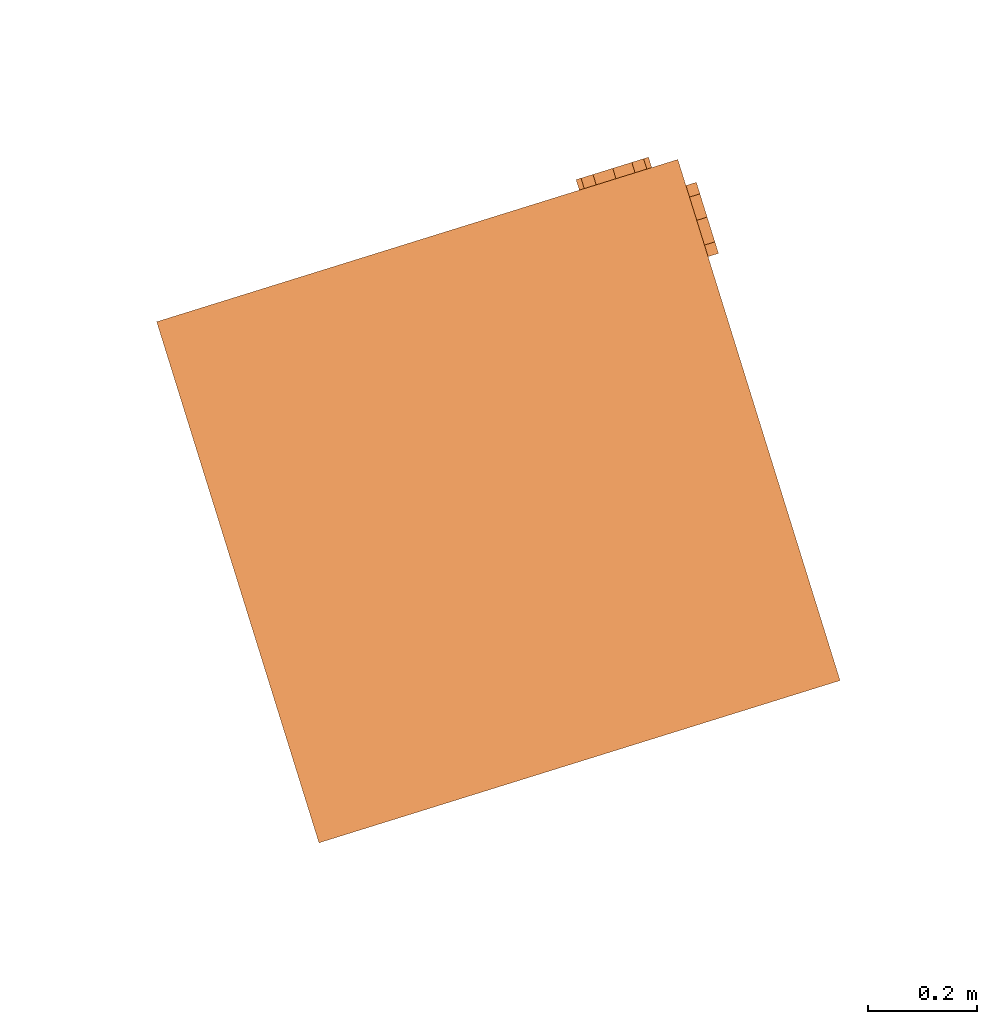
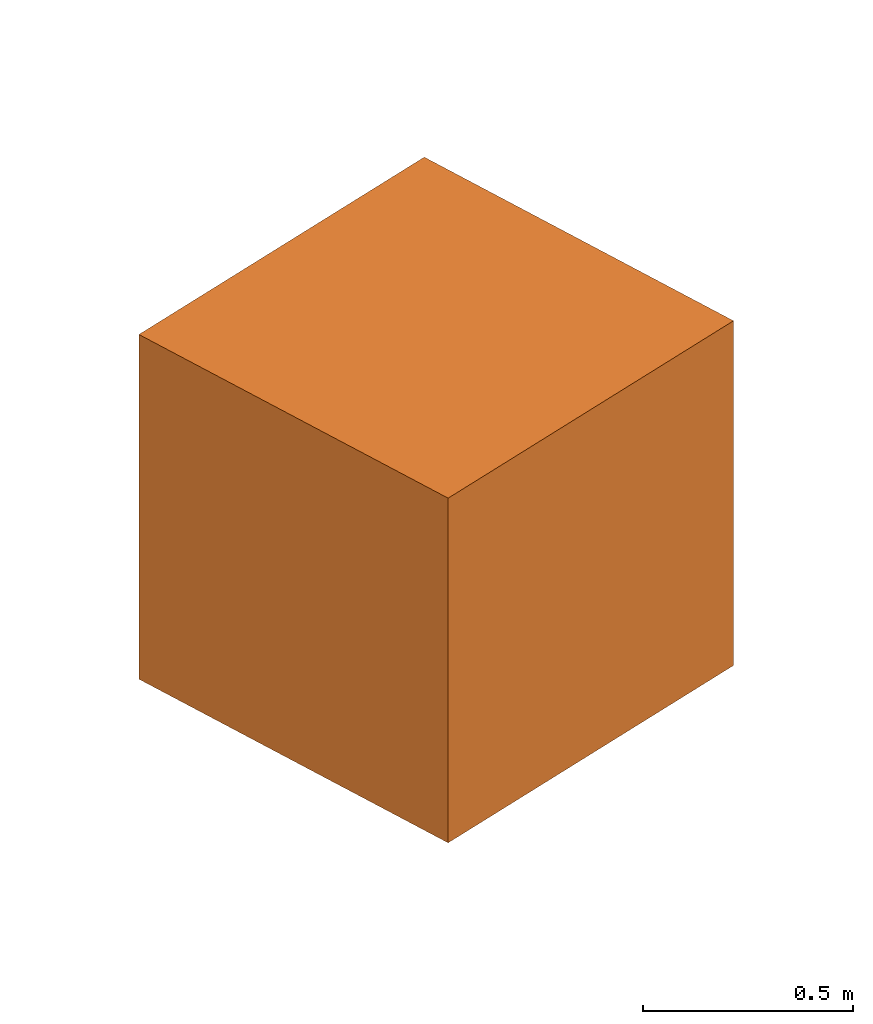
# One storey, part 2 of 2: 1 proxy.
"""IFC4 building model written with IfcOpenShell, lengths in metres."""

import ifcopenshell
import ifcopenshell.guid

model = None  # the IFC model being written
_history = None  # IfcOwnerHistory: only IFC2X3 demands one
_inside = {}  # id of a spatial element -> (the spatial element, [elements in it])
_under = {}  # id of a project, library or spatial element -> (it, [spatial elements below it])
_declared = {}  # id of a project -> (the project, [libraries it declares])
_typed = {}  # id of a type object -> (the type object, [elements of that type])
_made_of = {}  # id of a material, layer set ... -> (it, [elements and type objects made of it])


def new_model(schema):
    """Start an empty IFC model of exactly this schema.

    Asked for "IFC4X3", IfcOpenShell would pick the latest addendum, in which some entities
    have other attributes; the version numbers below select the first issue.
    IFC2X3 requires an IfcOwnerHistory on every rooted entity: one is made here for all.
    """
    global model, _history
    if schema == "IFC4X3":
        model = ifcopenshell.file(schema_version=(4, 3, 0, 0))
    else:
        model = ifcopenshell.file(schema=schema)
    _inside.clear()
    _under.clear()
    _declared.clear()
    _typed.clear()
    _made_of.clear()
    _history = None
    if model.schema == "IFC2X3":
        org = make("IfcOrganization", Name="unknown")
        user = make(
            "IfcPersonAndOrganization",
            ThePerson=make("IfcPerson", FamilyName="unknown"),
            TheOrganization=org,
        )
        app = make(
            "IfcApplication",
            ApplicationDeveloper=org,
            Version="unknown",
            ApplicationFullName="unknown",
            ApplicationIdentifier="unknown",
        )
        _history = make(
            "IfcOwnerHistory",
            OwningUser=user,
            OwningApplication=app,
            ChangeAction="ADDED",
            CreationDate=0,
        )
    return model


def make(cls, **values):
    """One entity of the class cls with the attributes given. An attribute that is None is left unset."""
    return model.create_entity(
        cls, **{name: value for name, value in values.items() if value is not None}
    )


def entity(cls, *values):
    """Any entity or typed value of the class cls, its attributes in the order of the schema. None: left unset."""
    e = model.create_entity(cls)
    for i, value in enumerate(values):
        if value is not None:
            e[i] = value
    return e


def rooted(cls, **values):
    """An entity with a GlobalId (a new one), such as an element, a storey or a relation."""
    return make(cls, GlobalId=ifcopenshell.guid.new(), OwnerHistory=_history, **values)


def si_unit(unit_type, name, prefix=None):
    """IfcSIUnit, for example si_unit("LENGTHUNIT", "METRE", prefix="MILLI")."""
    return make("IfcSIUnit", UnitType=unit_type, Prefix=prefix, Name=name)


def converted_unit(unit_type, name, factor, base, dimensions=None, offset=None):
    """IfcConversionBasedUnit, such as the inch: factor (a typed value) times the base unit."""
    return make(
        "IfcConversionBasedUnit"
        if offset is None
        else "IfcConversionBasedUnitWithOffset",
        ConversionOffset=offset,
        Dimensions=None
        if dimensions is None
        else entity("IfcDimensionalExponents", *dimensions),
        UnitType=unit_type,
        Name=name,
        ConversionFactor=make(
            "IfcMeasureWithUnit", ValueComponent=factor, UnitComponent=base
        ),
    )


def assignment(units):
    """IfcUnitAssignment: the units of a project."""
    return None if units is None else make("IfcUnitAssignment", Units=units)


def point(xyz):
    """IfcCartesianPoint."""
    return None if xyz is None else make("IfcCartesianPoint", Coordinates=xyz)


def direction(xyz):
    """IfcDirection."""
    return None if xyz is None else make("IfcDirection", DirectionRatios=xyz)


def frame(location, z_axis=None, x_axis=None):
    """IfcAxis2Placement3D, a coordinate frame: its origin and axes. An axis left out is left unset."""
    return make(
        "IfcAxis2Placement3D",
        Location=point(location),
        Axis=direction(z_axis),
        RefDirection=direction(x_axis),
    )


def origin():
    """The frame at (0, 0, 0) with its axes left unset."""
    return frame((0.0, 0.0, 0.0))


def place(relative_to, where):
    """IfcLocalPlacement: puts the frame where relative to a parent placement (None: the world)."""
    return make(
        "IfcLocalPlacement", PlacementRelTo=relative_to, RelativePlacement=where
    )


def context(
    kind, dimensions, precision=None, world=None, true_north=None, identifier=None
):
    """IfcGeometricRepresentationContext, for example the 3D "Model" context."""
    return make(
        "IfcGeometricRepresentationContext",
        ContextIdentifier=identifier,
        ContextType=kind,
        CoordinateSpaceDimension=dimensions,
        Precision=precision,
        WorldCoordinateSystem=world,
        TrueNorth=true_north,
    )


def subcontext(parent, identifier, kind, view, scale=None):
    """IfcGeometricRepresentationSubContext, for example "Body" below "Model"."""
    return make(
        "IfcGeometricRepresentationSubContext",
        ContextIdentifier=identifier,
        ContextType=kind,
        ParentContext=parent,
        TargetScale=scale,
        TargetView=view,
    )


def project(units=None, contexts=None):
    """IfcProject with its units and contexts."""
    return rooted(
        "IfcProject",
        Name="project",
        RepresentationContexts=contexts,
        UnitsInContext=assignment(units),
    )


def spatial(cls, under=None, at=None, **own):
    """A site, building, storey or space (cls), placed at a placement, below another one or the project."""
    s = rooted(cls, ObjectPlacement=at, **own)
    if under is not None:
        _under.setdefault(under.id(), (under, []))[1].append(s)
    return s


def point_list(points):
    """IfcCartesianPointList2D or 3D."""
    cls = (
        "IfcCartesianPointList2D" if len(points[0]) == 2 else "IfcCartesianPointList3D"
    )
    return make(cls, CoordList=points)


def polygons(points, faces, closed=None, point_numbers=None):
    """IfcPolygonalFaceSet: a face is its outer loop, then its inner loops; points numbered from 1."""
    made = []
    for loops in faces:
        if len(loops) == 1:
            made.append(make("IfcIndexedPolygonalFace", CoordIndex=loops[0]))
        else:
            made.append(
                make(
                    "IfcIndexedPolygonalFaceWithVoids",
                    CoordIndex=loops[0],
                    InnerCoordIndices=loops[1:],
                )
            )
    return make(
        "IfcPolygonalFaceSet",
        Coordinates=point_list(points),
        Closed=closed,
        Faces=made,
        PnIndex=point_numbers,
    )


def shape(context_of_items, identifier, shape_type, items):
    """IfcShapeRepresentation: the items that make up one representation, for example the "Body"."""
    return make(
        "IfcShapeRepresentation",
        ContextOfItems=context_of_items,
        RepresentationIdentifier=identifier,
        RepresentationType=shape_type,
        Items=items,
    )


def source(mapping_origin, context_of_items, identifier, shape_type, items):
    """IfcRepresentationMap: a shape defined once, which mapped items show again and again."""
    return make(
        "IfcRepresentationMap",
        MappingOrigin=mapping_origin,
        MappedRepresentation=shape(context_of_items, identifier, shape_type, items),
    )


def transform(
    local_origin,
    x_axis=None,
    y_axis=None,
    z_axis=None,
    scale=None,
    scale2=None,
    scale3=None,
    uniform=True,
):
    """IfcCartesianTransformationOperator3D, or its non-uniform kind. x_axis, y_axis, z_axis: its Axis1, 2, 3."""
    if uniform:
        return make(
            "IfcCartesianTransformationOperator3D",
            Axis1=direction(x_axis),
            Axis2=direction(y_axis),
            LocalOrigin=point(local_origin),
            Scale=scale,
            Axis3=direction(z_axis),
        )
    return make(
        "IfcCartesianTransformationOperator3DnonUniform",
        Axis1=direction(x_axis),
        Axis2=direction(y_axis),
        LocalOrigin=point(local_origin),
        Scale=scale,
        Axis3=direction(z_axis),
        Scale2=scale2,
        Scale3=scale3,
    )


def mapped(mapping_source, mapping_target):
    """IfcMappedItem: shows the shape of a source again, moved by a transform."""
    return make(
        "IfcMappedItem", MappingSource=mapping_source, MappingTarget=mapping_target
    )


def material(Name=None, Category=None):
    """IfcMaterial."""
    return make("IfcMaterial", Name=Name, Category=Category)


def constituent(of_material, Name=None, Category=None, fraction=None):
    """IfcMaterialConstituent: one of the materials an element consists of."""
    return make(
        "IfcMaterialConstituent",
        Name=Name,
        Material=of_material,
        Fraction=fraction,
        Category=Category,
    )


def constituent_set(constituents=None, Name=None):
    """IfcMaterialConstituentSet."""
    return make(
        "IfcMaterialConstituentSet", Name=Name, MaterialConstituents=constituents
    )


def made_of(thing, what):
    """Note that an element or type object is made of a material, layer set ...; save() writes the relation."""
    if what is not None:
        _made_of.setdefault(what.id(), (what, []))[1].append(thing)
    return thing


def type_object(cls, material=None, **own):
    """A type object (cls), such as IfcWallType, which elements share."""
    return made_of(rooted(cls, **own), material)


def type_shapes(of_type, sources):
    """Give a type object the sources (RepresentationMaps) that its elements show as mapped items."""
    of_type.RepresentationMaps = sources


def element(
    cls,
    number,
    at=None,
    inside=None,
    cuts=None,
    type_object=None,
    material=None,
    context=None,
    identifier="Body",
    shape_type=None,
    held_by="IfcProductDefinitionShape",
    body=None,
    shapes=None,
    **own,
):
    """One element of the class cls, such as IfcWall. Its Tag is "e" and its number.

    at: its placement. inside: the storey or other place that contains it. cuts: it is an
    opening in that element (IfcRelVoidsElement). A single representation is given by context,
    identifier, shape_type and body (its items); several are given by shapes. held_by: the class
    of the entity that holds the representations. save() writes the other relations.
    """
    e = rooted(cls, Tag="e%d" % number, ObjectPlacement=at, **own)
    if body is not None:
        shapes = [shape(context, identifier, shape_type, body)]
    if shapes is not None:
        e.Representation = make(held_by, Representations=shapes)
    if inside is not None:
        _inside.setdefault(inside.id(), (inside, []))[1].append(e)
    if cuts is not None:
        rooted(
            "IfcRelVoidsElement", RelatingBuildingElement=cuts, RelatedOpeningElement=e
        )
    if type_object is not None:
        _typed.setdefault(type_object.id(), (type_object, []))[1].append(e)
    return made_of(e, material)


def aggregate(whole, parts):
    """IfcRelAggregates: a whole, such as a stair, and the parts it consists of."""
    return rooted("IfcRelAggregates", RelatingObject=whole, RelatedObjects=parts)


def save(model, path):
    """Write the relations noted so far, then the file.

    IfcRelAggregates (storeys below a building ...), IfcRelContainedInSpatialStructure (elements
    in a storey), IfcRelDefinesByType, IfcRelAssociatesMaterial and IfcRelDeclares: one each for
    every whole, place, type object, material and project.
    """
    for whole, parts in _under.values():
        aggregate(whole, parts)
    for where, things in _inside.values():
        rooted(
            "IfcRelContainedInSpatialStructure",
            RelatedElements=things,
            RelatingStructure=where,
        )
    for kind, things in _typed.values():
        rooted("IfcRelDefinesByType", RelatedObjects=things, RelatingType=kind)
    for what, things in _made_of.values():
        rooted("IfcRelAssociatesMaterial", RelatedObjects=things, RelatingMaterial=what)
    for by, libraries in _declared.values():
        rooted("IfcRelDeclares", RelatingContext=by, RelatedDefinitions=libraries)
    model.write(path)


model = new_model("IFC4")

# Units and contexts
model_context = context("Model", 3, precision=1e-05, world=origin(), true_north=direction((6.12323399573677e-17, 1.0)))
body_context = subcontext(model_context, "Body", "Model", "MODEL_VIEW")
ifc_project = project(units=[si_unit("LENGTHUNIT", "METRE"), si_unit("AREAUNIT", "SQUARE_METRE"), si_unit("VOLUMEUNIT", "CUBIC_METRE"), converted_unit("PLANEANGLEUNIT", "DEGREE", entity("IfcPlaneAngleMeasure", 0.0174532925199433), si_unit("PLANEANGLEUNIT", "RADIAN"), dimensions=[0, 0, 0, 0, 0, 0, 0])], contexts=[model_context])

# Site, building, storey
site_placement = place(None, frame((13.1347999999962, 11.9886000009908, 0.0), z_axis=(0.0, 0.0, 1.0), x_axis=(0.954770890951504, 0.297342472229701, 0.0)))
site = spatial("IfcSite", under=ifc_project, at=site_placement, Name="Schiehaven", CompositionType="ELEMENT")
building_placement = place(site_placement, origin())
building = spatial("IfcBuilding", under=site, at=building_placement, Name="VORM huis", CompositionType="ELEMENT")
storey_placement = place(building_placement, origin())
storey = spatial("IfcBuildingStorey", under=building, at=storey_placement, Name="00 begane grond", CompositionType="ELEMENT", Elevation=0.0)

# Proxy
ifc_material_1 = material(Name="Blauw")
ifc_constituent_1 = constituent(ifc_material_1, Name="Blauw")
ifc_material_2 = material(Name="Wit")
ifc_constituent_2 = constituent(ifc_material_2, Name="Wit")
ifc_constituent_set_1 = constituent_set(constituents=[ifc_constituent_1, ifc_constituent_2])
ifc_constituent_3 = constituent(ifc_material_1, Name="Blauw")
ifc_constituent_4 = constituent(ifc_material_2, Name="Wit")
ifc_constituent_set_2 = constituent_set(constituents=[ifc_constituent_3, ifc_constituent_4])
building_element_proxy_type = type_object("IfcBuildingElementProxyType", Name="VORM_coordinatiepunt:Lokaal-coordinatiepunt", PredefinedType="NOTDEFINED", material=ifc_constituent_set_2)
shared_shape = source(origin(), body_context, "Body", "Tessellation", [
    polygons([(-0.0499999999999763, 0.0200000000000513, -0.2), (-0.0729190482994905, 0.0200000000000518, -0.2), (-0.110700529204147, 0.0200000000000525, -0.146509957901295), (-0.119566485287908, 0.0200000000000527, -0.134075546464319), (-0.127623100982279, 0.0200000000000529, -0.145406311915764), (-0.166324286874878, 0.0200000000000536, -0.2), (-0.188912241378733, 0.0200000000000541, -0.2), (-0.130823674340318, 0.0200000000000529, -0.118109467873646), (-0.179494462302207, 0.0200000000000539, -0.0493155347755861), (-0.156575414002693, 0.0200000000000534, -0.0493155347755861), (-0.129462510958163, 0.0200000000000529, -0.0876488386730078), (-0.118646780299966, 0.0200000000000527, -0.102952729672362), (-0.109412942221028, 0.0200000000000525, -0.0879063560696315), (-0.0820057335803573, 0.020000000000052, -0.0493155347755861), (-0.0594177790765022, 0.0200000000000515, -0.0493155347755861), (-0.108088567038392, 0.0200000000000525, -0.11788873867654), (-0.0499999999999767, 5.1340309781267e-14, -0.2), (-0.108088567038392, 5.24802955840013e-14, -0.11788873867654), (-0.0594177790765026, 5.15254512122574e-14, -0.0493155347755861), (-0.0820057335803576, 5.19687523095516e-14, -0.0493155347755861), (-0.109412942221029, 5.25060667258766e-14, -0.0879063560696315), (-0.118646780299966, 5.26873938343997e-14, -0.102952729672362), (-0.129462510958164, 5.28992681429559e-14, -0.0876488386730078), (-0.156575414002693, 5.34313256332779e-14, -0.0493155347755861), (-0.179494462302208, 5.38803645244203e-14, -0.0493155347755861), (-0.130823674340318, 5.29255201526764e-14, -0.118109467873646), (-0.188912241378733, 5.40640959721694e-14, -0.2), (-0.166324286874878, 5.36222048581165e-14, -0.2), (-0.12762310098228, 5.28625349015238e-14, -0.145406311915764), (-0.119566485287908, 5.27050554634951e-14, -0.134075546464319), (-0.110700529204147, 5.25313569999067e-14, -0.146509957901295), (-0.0729190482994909, 5.17907586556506e-14, -0.2)], [[[1, 2, 3, 4, 5, 6, 7, 8, 9, 10, 11, 12, 13, 14, 15, 16]], [[17, 18, 19, 20, 21, 22, 23, 24, 25, 26, 27, 28, 29, 30, 31, 32]], [[2, 1, 17, 32]], [[3, 2, 32, 31]], [[4, 3, 31, 30]], [[5, 4, 30, 29]], [[6, 5, 29, 28]], [[7, 6, 28, 27]], [[8, 7, 27, 26]], [[9, 8, 26, 25]], [[10, 9, 25, 24]], [[11, 10, 24, 23]], [[12, 11, 23, 22]], [[13, 12, 22, 21]], [[14, 13, 21, 20]], [[15, 14, 20, 19]], [[16, 15, 19, 18]], [[1, 16, 18, 17]]], closed=True),
    polygons([(0.0200000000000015, -0.127696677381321, -0.2), (0.0200000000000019, -0.108861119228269, -0.2), (0.0200000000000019, -0.108861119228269, -0.136172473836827), (0.0200000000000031, -0.0499999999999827, -0.0493155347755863), (0.0200000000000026, -0.0722200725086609, -0.0493155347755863), (0.0200000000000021, -0.100730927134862, -0.0940131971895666), (0.0200000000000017, -0.116844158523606, -0.119360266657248), (0.0200000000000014, -0.132920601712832, -0.0957054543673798), (0.0200000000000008, -0.16433772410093, -0.0493155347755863), (0.0200000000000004, -0.186557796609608, -0.0493155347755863), (0.0200000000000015, -0.127696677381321, -0.136172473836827), (1.52711584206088e-15, -0.127696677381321, -0.2), (1.52711584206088e-15, -0.127696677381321, -0.136172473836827), (3.72801864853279e-16, -0.186557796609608, -0.0493155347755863), (8.08474317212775e-16, -0.164337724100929, -0.0493155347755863), (1.42499301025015e-15, -0.132920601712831, -0.0957054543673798), (1.73947101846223e-15, -0.116844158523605, -0.119360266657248), (2.0558398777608e-15, -0.100730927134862, -0.0940131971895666), (2.61463024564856e-15, -0.0722200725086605, -0.0493155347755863), (3.05030269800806e-15, -0.0499999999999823, -0.0493155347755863), (1.89598872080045e-15, -0.108861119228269, -0.136172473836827), (1.89598872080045e-15, -0.108861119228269, -0.2)], [[[1, 2, 3, 4, 5, 6, 7, 8, 9, 10, 11]], [[12, 13, 14, 15, 16, 17, 18, 19, 20, 21, 22]], [[2, 1, 12, 22]], [[3, 2, 22, 21]], [[4, 3, 21, 20]], [[5, 4, 20, 19]], [[6, 5, 19, 18]], [[7, 6, 18, 17]], [[8, 7, 17, 16]], [[9, 8, 16, 15]], [[10, 9, 15, 14]], [[11, 10, 14, 13]], [[1, 11, 13, 12]]], closed=True),
    polygons([(-0.999999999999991, 3.71950576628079e-14, -1.35358391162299e-16), (-0.999999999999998, -0.999999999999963, 0.0), (8.79829542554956e-16, -0.999999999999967, 0.0), (1.18811047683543e-14, 3.57346152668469e-14, -0.99999999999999), (0.0, -0.999999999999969, -1.0), (-0.999999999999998, -0.999999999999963, -1.0), (-0.999999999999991, 3.73636623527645e-14, -1.0)], [[[1, 2, 3]], [[4, 5, 6, 7]], [[4, 7, 1]], [[2, 1, 7, 6]], [[3, 2, 6, 5]], [[5, 4, 3]], [[1, 3, 4]]], closed=True),
    polygons([(3.04105185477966e-14, -0.999999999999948, 2.84208529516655e-45), (2.73423950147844e-14, 3.1673863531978e-14, 0.0), (-0.999999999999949, 4.31351547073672e-14, 0.0), (2.40823657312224e-14, 2.83801426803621e-14, -0.999999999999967)], [[[1, 2, 3]], [[2, 1, 4]], [[3, 2, 4]], [[1, 3, 4]]], closed=True),
])
type_shapes(building_element_proxy_type, [shared_shape])
proxy_placement = place(storey_placement, origin())
element("IfcBuildingElementProxy", 1, at=proxy_placement, inside=storey, type_object=building_element_proxy_type, material=ifc_constituent_set_1, Name="Lokaal-coordinatiepunt", ObjectType="Referentie-object", PredefinedType="NOTDEFINED", context=body_context, shape_type="MappedRepresentation", body=[
    mapped(shared_shape, transform((0.0, 0.0, 0.0), scale=1.0)),
])

save(model, "model.ifc")
